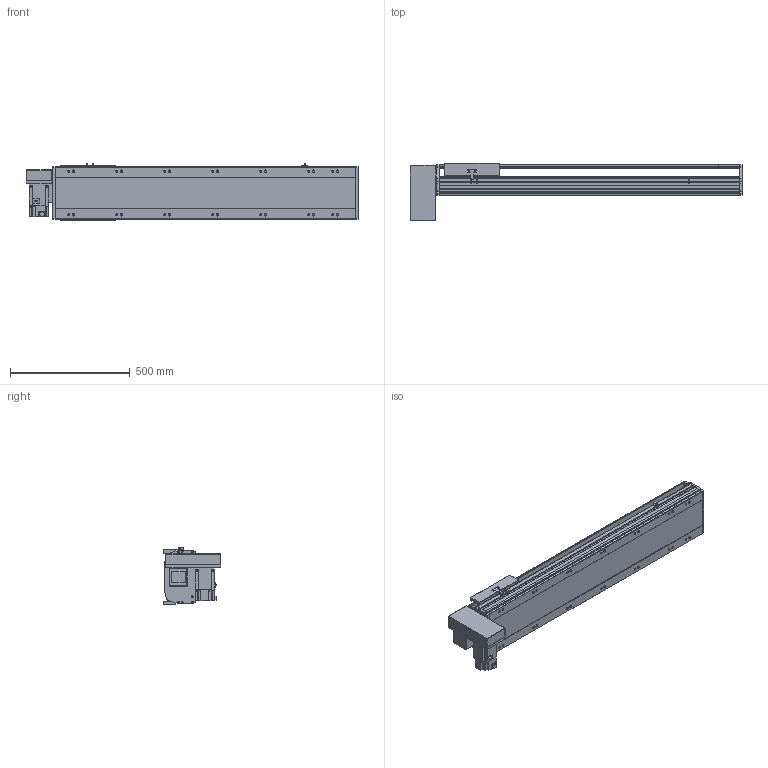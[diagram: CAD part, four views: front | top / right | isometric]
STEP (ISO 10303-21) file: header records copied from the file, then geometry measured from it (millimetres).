
FILE_DESCRIPTION(/* description */ ('STEP AP214'),/* implementation_level */ '2;1');
FILE_NAME(/* name */ 'PBS220-P40-S900-RD-T75-C1-N(0)',/* time_stamp */ '2022-06-13T02:41:39+02:00',/* author */ ('License CC BY-ND 4.0'),/* organization */ ('CADENAS'),/* preprocessor_version */ 'ST-DEVELOPER v18.102',/* originating_system */ 'PARTsolutions',/* authorisation */ ' ');
FILE_SCHEMA (('AUTOMOTIVE_DESIGN {1 0 10303 214 3 1 1}'));
Length unit declared in the file: millimetre
Products named in the file (7): PBS220-P40-S900-RD-T75-C1-N(0); PBS220_sensor; PBS220_plant; PBS220_sliser; T75-p1; PBS220T-RD_motors; PBS220-S900()_body
Assembly tree (8 placements, depth 2):
  PBS220-P40-S900-RD-T75-C1-N(0)
    PBS220_sensor  x3
    PBS220_plant
    PBS220_sliser
    T75-p1
    PBS220T-RD_motors
    PBS220-S900()_body
Bounding box: 1384 x 239 x 238.5 mm (x, y, z)
Volume: 20108964.3 mm3; surface area: 1986223.8 mm2
Topology: 8 solids, 8 shells, 902 faces, 2368 edges, 1540 vertices
Faces by surface type: plane 594, cylinder 270, cone 38
Full cylindrical faces by diameter (mm): 2.013 x4, 4.5 x14, 4.917 x4, 6 x7, 6.647 x8, 8 x10, 8.376 x14, 8.5 x14, 10 x6, 14 x14, 38 x2, 40 x1, 70 x1
Entity records: 25317 total; most frequent: CARTESIAN_POINT 4426, DIRECTION 4401, ORIENTED_EDGE 4070, EDGE_CURVE 2035, AXIS2_PLACEMENT_3D 1529, VERTEX_POINT 1400, LINE 1343, VECTOR 1343
